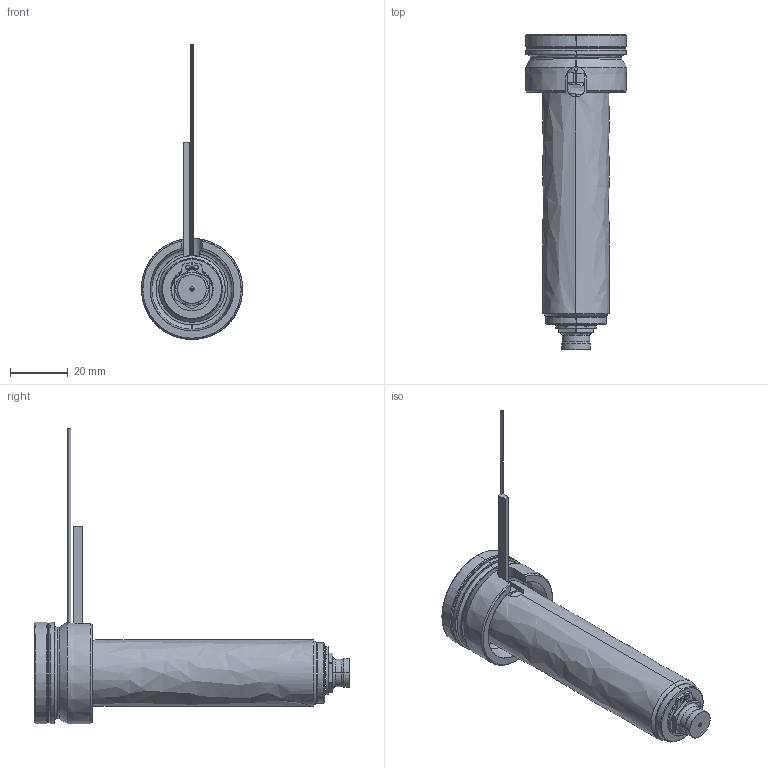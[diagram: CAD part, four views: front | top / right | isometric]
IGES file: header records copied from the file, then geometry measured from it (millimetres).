
Start section: SolidWorks IGES file using analytic representation for surfaces
Global section: file name: C:\Documents and Settings\ws-20\Desktop\TEM\UGEP3152-S-A-0 [Øf-0.50 P-0 ØC-6.0].IGS; native system: SolidWorks 2012; preprocessor: SolidWorks 2012; author: ws-20; date: 120404.080703; units: millimetre
Bounding box: 35 x 109 x 102.1 mm (x, y, z)
Surface area: 18901.4 mm2 (no closed solid volume)
Topology: 0 solids, 0 shells, 127 faces, 1944 edges, 1944 vertices
Faces by surface type: revolution 77, bspline 50
